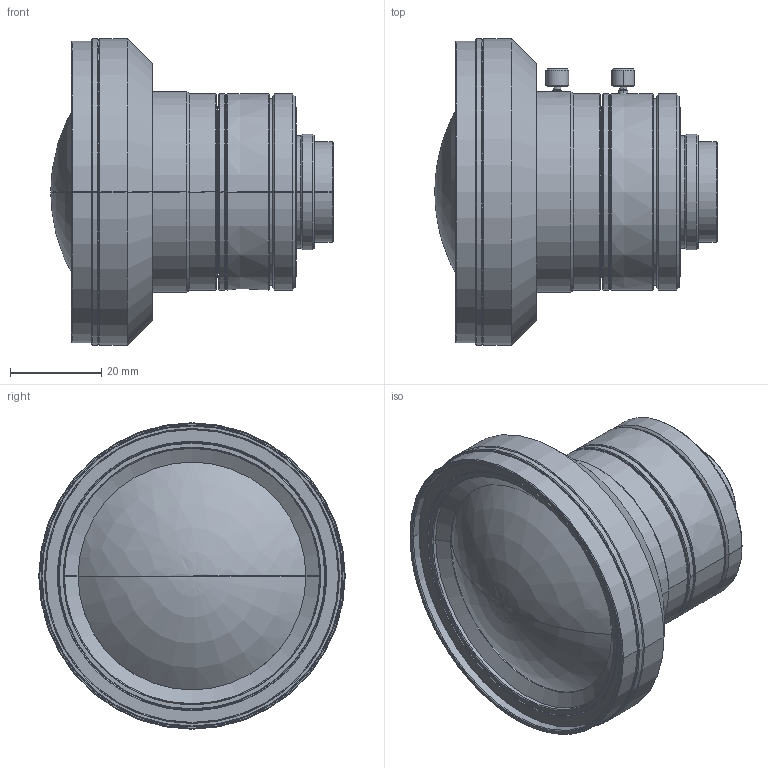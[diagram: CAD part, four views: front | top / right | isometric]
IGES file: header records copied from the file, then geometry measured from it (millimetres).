
Start section: SolidWorks IGES file using analytic representation for surfaces
Global section: file name: C:\Users\tsuzuki_vst\Documents\09-業務_検討\265-【D-2212057_M2090A】VS-HVA0828\3D\VS-HVA0828_Drawing_M2092A_A00100.IGS; native system: SolidWorks 2024; preprocessor: SolidWorks 2024; author: tsuzuki_vst; date: 240717.125528; units: millimetre
Bounding box: 61.88 x 67.2 x 67.2 mm (x, y, z)
Surface area: 17665.3 mm2 (no closed solid volume)
Topology: 0 solids, 0 shells, 142 faces, 2816 edges, 2814 vertices
Faces by surface type: revolution 120, bspline 22
